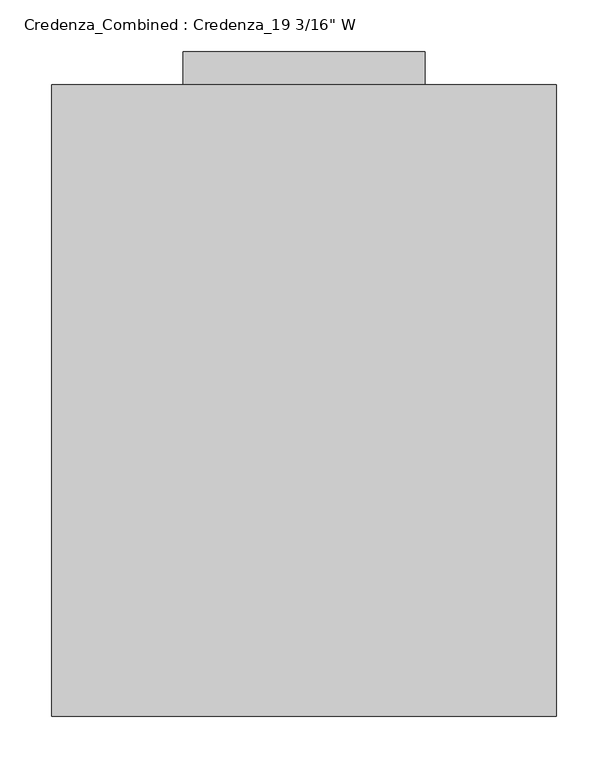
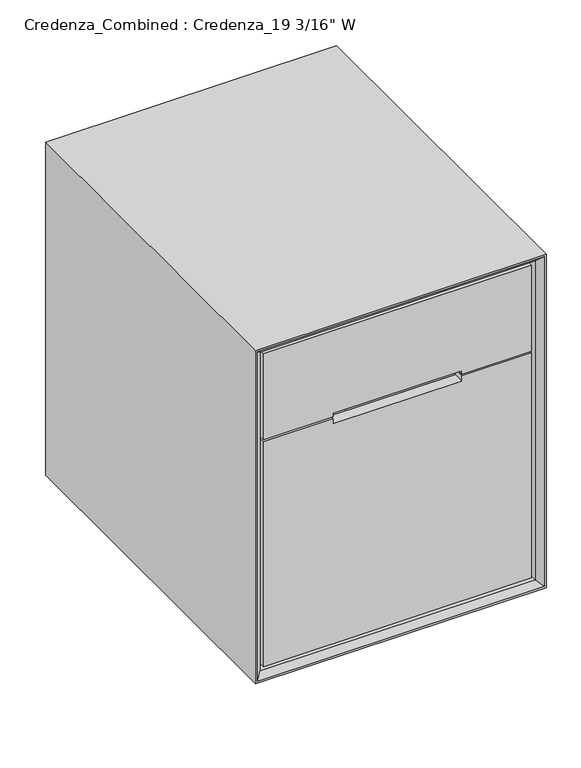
"""IFC4 building model written with IfcOpenShell, lengths in millimetres: furniture geometry."""

from ifc_helpers import new_model, si_unit, frame, origin, origin_with_axes, place, context, project, spatial, polyline, outline, extrude, faceted_brep, source, transform, mapped, element, save


def furniture_7c4e28b5(model_context):
    return source(origin(), model_context, "Body", "SolidModel", [
        extrude(outline(polyline([(360.3625, 609.6), (360.3625, 241.3), (127.0, 241.3), (127.0, 609.6), (360.3625, 609.6)])), origin_with_axes(), (0.0, 0.0, 1.0), 87.3125),
        extrude(outline(polyline([(360.3625, 641.35), (360.3625, 609.6), (127.0, 609.6), (127.0, 641.35), (360.3625, 641.35)])), origin_with_axes(), (0.0, 0.0, 1.0), 647.7),
        extrude(outline(polyline([(665.1625, 474.6625), (665.1625, 12.7), (100.0125, 12.7), (100.0125, 474.6625), (665.1625, 474.6625)]), holes=[polyline([(646.1125, 31.75), (646.1125, 455.6125), (119.0625, 455.6125), (119.0625, 31.75), (646.1125, 31.75)])]), frame((0.0, 31.75, 0.0), z_axis=(0.0, 1.0, 0.0), x_axis=(0.0, 0.0, 1.0)), (0.0, 0.0, 1.0), 577.85),
        faceted_brep([(474.6625, 9.525, 665.1625), (474.6625, 609.6, 665.1625), (474.6625, 609.6, 100.0125), (474.6625, 9.525, 100.0125), (484.1875, 0.0, 674.6875), (484.1875, 0.0, 90.4875), (487.3625, 609.6, 677.8625), (487.3625, 0.0, 677.8625), (487.3625, 0.0, 87.3125), (487.3625, 609.6, 87.3125), (12.7, 609.6, 100.0125), (12.7, 9.525, 100.0125), (3.175, 0.0, 90.4875), (0.0, 0.0, 87.3125), (0.0, 609.6, 87.3125), (12.7, 609.6, 665.1625), (12.7, 9.525, 665.1625), (3.175, 0.0, 674.6875), (0.0, 0.0, 677.8625), (0.0, 609.6, 677.8625)], [[[0, 1, 2, 3]], [[4, 0, 3, 5]], [[6, 7, 8, 9]], [[3, 2, 10, 11]], [[5, 3, 11, 12]], [[9, 8, 13, 14]], [[11, 10, 15, 16]], [[12, 11, 16, 17]], [[14, 13, 18, 19]], [[9, 14, 19, 6], [1, 15, 10, 2]], [[16, 15, 1, 0]], [[17, 16, 0, 4]], [[7, 18, 13, 8], [5, 12, 17, 4]], [[19, 18, 7, 6]]]),
        faceted_brep([(450.85, 609.6, 478.63125), (36.5125, 609.6, 478.63125), (36.5125, 28.575, 478.63125), (450.85, 28.575, 478.63125), (49.2125, 596.9, 478.63125), (436.5625, 596.9, 478.63125), (436.5625, 41.275, 478.63125), (49.2125, 41.275, 478.63125), (450.85, 609.6, 105.56875), (36.5125, 609.6, 105.56875), (36.5125, 28.575, 105.56875), (450.85, 28.575, 105.56875), (49.2125, 596.9, 118.26875), (436.5625, 596.9, 118.26875), (436.5625, 41.275, 118.26875), (49.2125, 41.275, 118.26875)], [[[0, 1, 2, 3], [4, 5, 6, 7]], [[1, 0, 8, 9]], [[2, 1, 9, 10]], [[3, 2, 10, 11]], [[8, 0, 3, 11]], [[5, 4, 12, 13]], [[6, 5, 13, 14]], [[7, 6, 14, 15]], [[4, 7, 15, 12]], [[13, 12, 15, 14]], [[8, 11, 10, 9]]]),
        faceted_brep([(436.5625, 596.9, 519.90625), (49.2125, 596.9, 519.90625), (49.2125, 41.275, 519.90625), (436.5625, 41.275, 519.90625), (450.85, 609.6, 507.20625), (450.85, 28.575, 507.20625), (36.5125, 28.575, 507.20625), (36.5125, 609.6, 507.20625), (36.5125, 609.6, 634.20625), (450.85, 609.6, 634.20625), (36.5125, 28.575, 634.20625), (450.85, 28.575, 634.20625), (49.2125, 596.9, 634.20625), (436.5625, 596.9, 634.20625), (436.5625, 41.275, 634.20625), (49.2125, 41.275, 634.20625)], [[[0, 1, 2, 3]], [[4, 5, 6, 7]], [[4, 7, 8, 9]], [[8, 7, 6, 10]], [[10, 6, 5, 11]], [[11, 5, 4, 9]], [[9, 8, 10, 11], [12, 13, 14, 15]], [[13, 12, 1, 0]], [[14, 13, 0, 3]], [[15, 14, 3, 2]], [[12, 15, 2, 1]]]),
        extrude(outline(polyline([(504.03125, 19.05), (105.56875, 19.05), (105.56875, 468.3125), (504.03125, 468.3125), (504.03125, 351.63125), (494.7030946, 351.63125), (494.7030946, 135.73125), (504.03125, 135.73125), (504.03125, 19.05)])), frame((0.0, 9.525, 0.0), z_axis=(0.0, 1.0, 0.0), x_axis=(0.0, 0.0, 1.0)), (0.0, 0.0, 1.0), 19.05),
        extrude(outline(polyline([(659.60625, 468.3125), (659.60625, 19.05), (507.20625, 19.05), (507.20625, 135.73125), (513.3594054, 135.73125), (513.3594054, 351.63125), (507.20625, 351.63125), (507.20625, 468.3125), (659.60625, 468.3125)])), frame((0.0, 9.525, 0.0), z_axis=(0.0, 1.0, 0.0), x_axis=(0.0, 0.0, 1.0)), (0.0, 0.0, 1.0), 19.05),
    ])


if __name__ == "__main__":
    model = new_model("IFC4")
    model_context = context("Model", 3, world=origin())
    ifc_project = project(units=[si_unit("LENGTHUNIT", "METRE", prefix="MILLI")], contexts=[model_context])
    site = spatial("IfcSite", under=ifc_project)
    building = spatial("IfcBuilding", under=site)
    placement = place(None, origin())
    furniture_shape = furniture_7c4e28b5(model_context)
    element("IfcFurniture", 1, ObjectType="Credenza_Combined : Credenza_19 3/16\" W", at=placement, inside=building, context=model_context, shape_type="MappedRepresentation", body=[
        mapped(furniture_shape, transform((0.0, 0.0, 0.0), x_axis=(1.0, 0.0, 0.0), y_axis=(0.0, 1.0, 0.0), z_axis=(0.0, 0.0, 1.0))),
    ])
    save(model, "model.ifc")
